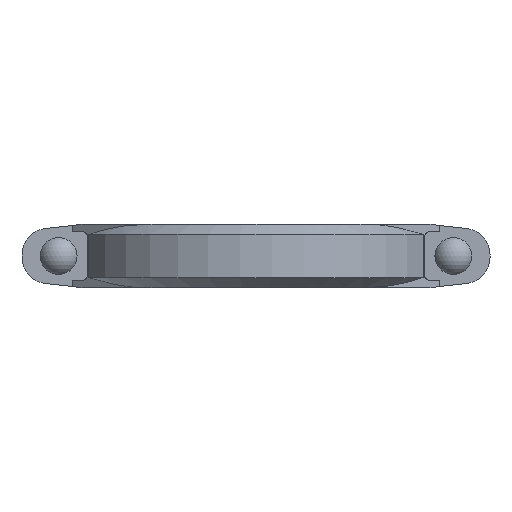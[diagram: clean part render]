
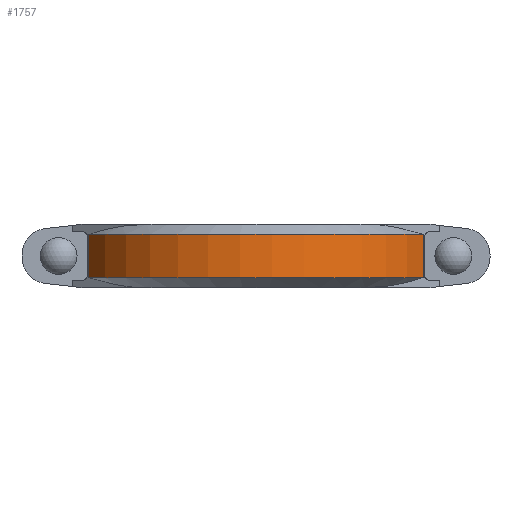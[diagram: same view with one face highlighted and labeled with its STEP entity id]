
A CAD part, front view. The second image highlights one B-rep face of the part: STEP entity #1757.
In plain terms, the highlighted cylindrical face has radius 188.722 mm (diameter 377.444 mm), a partial arc.
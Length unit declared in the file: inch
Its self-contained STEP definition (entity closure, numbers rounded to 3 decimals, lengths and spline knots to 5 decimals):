
#194=FACE_OUTER_BOUND('',#290,.T.);
#290=EDGE_LOOP('',(#1431,#1432,#1433,#1434));
#371=LINE('',#2644,#528);
#439=LINE('',#2846,#596);
#528=VECTOR('',#2130,0.3937);
#596=VECTOR('',#2292,0.3937);
#679=CIRCLE('',#1914,7.43);
#683=CIRCLE('',#1921,7.43);
#756=VERTEX_POINT('',#2639);
#757=VERTEX_POINT('',#2643);
#825=VERTEX_POINT('',#2841);
#826=VERTEX_POINT('',#2845);
#937=EDGE_CURVE('',#757,#756,#371,.T.);
#1032=EDGE_CURVE('',#826,#825,#439,.T.);
#1047=EDGE_CURVE('',#756,#826,#679,.T.);
#1054=EDGE_CURVE('',#757,#825,#683,.T.);
#1431=ORIENTED_EDGE('',*,*,#937,.T.);
#1432=ORIENTED_EDGE('',*,*,#1047,.T.);
#1433=ORIENTED_EDGE('',*,*,#1032,.T.);
#1434=ORIENTED_EDGE('',*,*,#1054,.F.);
#1597=CYLINDRICAL_SURFACE('',#1920,7.43);
#1757=ADVANCED_FACE('',(#194),#1597,.T.);
#1914=AXIS2_PLACEMENT_3D('',#2876,#2319,#2320);
#1920=AXIS2_PLACEMENT_3D('',#2889,#2334,#2335);
#1921=AXIS2_PLACEMENT_3D('',#2890,#2336,#2337);
#2130=DIRECTION('',(0.,0.,1.));
#2292=DIRECTION('',(0.,0.,-1.));
#2319=DIRECTION('center_axis',(0.,0.,-1.));
#2320=DIRECTION('ref_axis',(0.,-1.,0.));
#2334=DIRECTION('center_axis',(0.,0.,-1.));
#2335=DIRECTION('ref_axis',(0.,-1.,0.));
#2336=DIRECTION('center_axis',(0.,0.,-1.));
#2337=DIRECTION('ref_axis',(0.,-1.,0.));
#2639=CARTESIAN_POINT('',(6.74079,-3.12517,0.875));
#2643=CARTESIAN_POINT('',(6.74079,-3.12517,-0.875));
#2644=CARTESIAN_POINT('',(6.74079,-3.12517,0.));
#2841=CARTESIAN_POINT('',(-6.74079,-3.12517,-0.875));
#2845=CARTESIAN_POINT('',(-6.74079,-3.12517,0.875));
#2846=CARTESIAN_POINT('',(-6.74079,-3.12517,0.));
#2876=CARTESIAN_POINT('Origin',(0.,0.,0.875));
#2889=CARTESIAN_POINT('Origin',(0.,0.,0.));
#2890=CARTESIAN_POINT('Origin',(0.,0.,-0.875));
